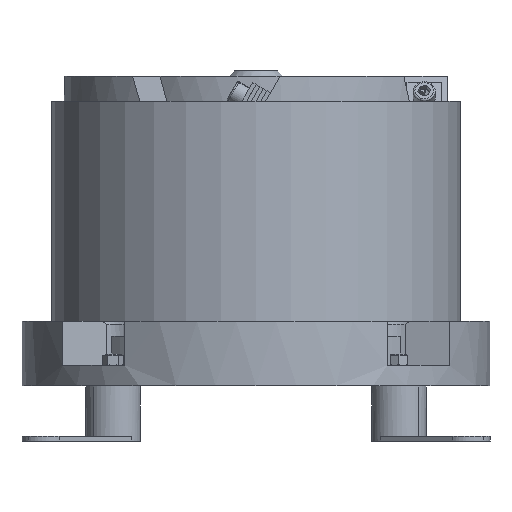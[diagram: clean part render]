
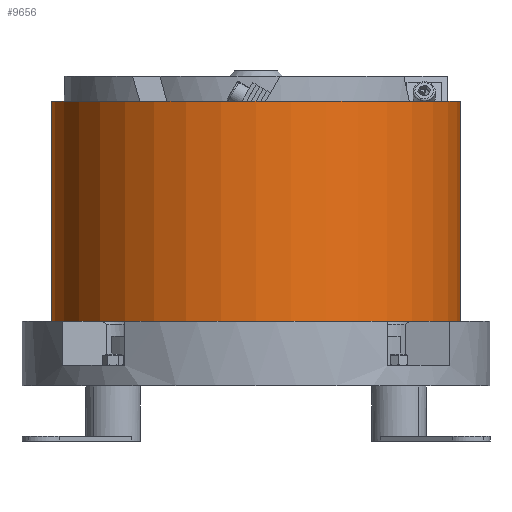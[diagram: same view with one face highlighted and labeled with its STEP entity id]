
A CAD part, front view. The second image highlights one B-rep face of the part: STEP entity #9656.
In plain terms, the highlighted cylindrical face has radius 148.5 mm (diameter 297 mm), a partial arc.
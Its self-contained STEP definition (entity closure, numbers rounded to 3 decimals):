
#24 = AXIS2_PLACEMENT_3D ( 'NONE', #12836, #887, #2281 ) ;
#887 = DIRECTION ( 'NONE',  ( 0., 0., -1. ) ) ;
#969 = DIRECTION ( 'NONE',  ( -1., 0., 0. ) ) ;
#1602 = VECTOR ( 'NONE', #14081, 1000. ) ;
#1952 = EDGE_CURVE ( 'NONE', #3225, #15344, #9561, .T. ) ;
#2281 = DIRECTION ( 'NONE',  ( -1., 0., 0. ) ) ;
#2440 = EDGE_CURVE ( 'NONE', #16467, #14228, #12882, .T. ) ;
#2542 = DIRECTION ( 'NONE',  ( 0., 0., 1. ) ) ;
#2591 = DIRECTION ( 'NONE',  ( 1., 0., 0. ) ) ;
#2832 = AXIS2_PLACEMENT_3D ( 'NONE', #11681, #17162, #2591 ) ;
#3225 = VERTEX_POINT ( 'NONE', #11001 ) ;
#3401 = CARTESIAN_POINT ( 'NONE',  ( -104.986, 6.653, -67.5 ) ) ;
#3576 = DIRECTION ( 'NONE',  ( 0., 0., -1. ) ) ;
#3946 = ORIENTED_EDGE ( 'NONE', *, *, #9581, .F. ) ;
#4284 = CYLINDRICAL_SURFACE ( 'NONE', #2832, 148.5 ) ;
#4795 = ORIENTED_EDGE ( 'NONE', *, *, #2440, .T. ) ;
#4918 = LINE ( 'NONE', #10309, #1602 ) ;
#7601 = CARTESIAN_POINT ( 'NONE',  ( 43.514, 6.653, 92.5 ) ) ;
#9561 = CIRCLE ( 'NONE', #11492, 148.5 ) ;
#9581 = EDGE_CURVE ( 'NONE', #15344, #14228, #4918, .T. ) ;
#9656 = ADVANCED_FACE ( 'NONE', ( #15305 ), #4284, .T. ) ;
#10042 = CARTESIAN_POINT ( 'NONE',  ( -253.486, 6.653, 92.5 ) ) ;
#10309 = CARTESIAN_POINT ( 'NONE',  ( -253.486, 6.653, -67.5 ) ) ;
#10538 = CARTESIAN_POINT ( 'NONE',  ( 43.514, 6.653, -67.5 ) ) ;
#11001 = CARTESIAN_POINT ( 'NONE',  ( 43.514, 6.653, -67.5 ) ) ;
#11492 = AXIS2_PLACEMENT_3D ( 'NONE', #3401, #3576, #969 ) ;
#11681 = CARTESIAN_POINT ( 'NONE',  ( -104.986, 6.653, -67.5 ) ) ;
#11756 = LINE ( 'NONE', #10538, #13218 ) ;
#12642 = ORIENTED_EDGE ( 'NONE', *, *, #15498, .T. ) ;
#12836 = CARTESIAN_POINT ( 'NONE',  ( -104.986, 6.653, 92.5 ) ) ;
#12882 = CIRCLE ( 'NONE', #24, 148.5 ) ;
#13218 = VECTOR ( 'NONE', #2542, 1000. ) ;
#14081 = DIRECTION ( 'NONE',  ( 0., 0., 1. ) ) ;
#14228 = VERTEX_POINT ( 'NONE', #10042 ) ;
#15305 = FACE_OUTER_BOUND ( 'NONE', #16066, .T. ) ;
#15344 = VERTEX_POINT ( 'NONE', #17081 ) ;
#15498 = EDGE_CURVE ( 'NONE', #3225, #16467, #11756, .T. ) ;
#16066 = EDGE_LOOP ( 'NONE', ( #3946, #16125, #12642, #4795 ) ) ;
#16125 = ORIENTED_EDGE ( 'NONE', *, *, #1952, .F. ) ;
#16467 = VERTEX_POINT ( 'NONE', #7601 ) ;
#17081 = CARTESIAN_POINT ( 'NONE',  ( -253.486, 6.653, -67.5 ) ) ;
#17162 = DIRECTION ( 'NONE',  ( 0., 0., 1. ) ) ;
